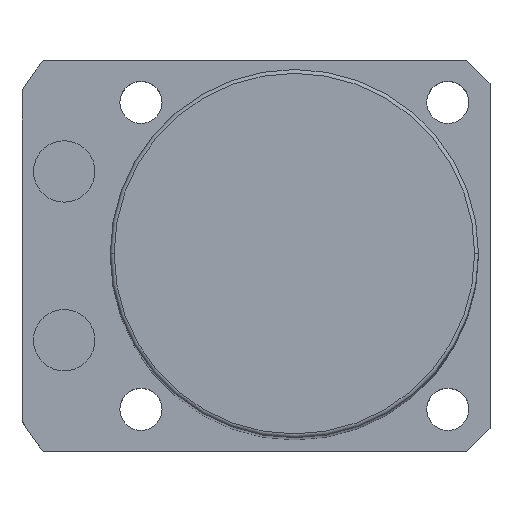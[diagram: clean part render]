
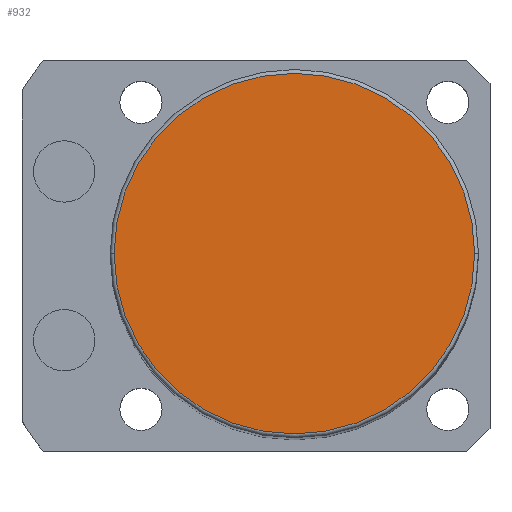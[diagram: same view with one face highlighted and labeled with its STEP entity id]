
A CAD part, top view. The second image highlights one B-rep face of the part: STEP entity #932.
In plain terms, the highlighted planar face has unit normal (0, 0, 1).
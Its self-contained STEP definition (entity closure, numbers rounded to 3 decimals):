
#268 = EDGE_LOOP ( 'NONE', ( #1578, #1601 ) ) ;
#437 = DIRECTION ( 'NONE',  ( 1., 0., 0. ) ) ;
#932 = ADVANCED_FACE ( 'NONE', ( #2117 ), #1220, .T. ) ;
#1017 = CARTESIAN_POINT ( 'NONE',  ( 0., 0., 176. ) ) ;
#1070 = AXIS2_PLACEMENT_3D ( 'NONE', #1017, #2506, #1438 ) ;
#1220 = PLANE ( 'NONE',  #1814 ) ;
#1287 = DIRECTION ( 'NONE',  ( 0., 0., 1. ) ) ;
#1438 = DIRECTION ( 'NONE',  ( 1., 0., 0. ) ) ;
#1537 = CIRCLE ( 'NONE', #1070, 23.5 ) ;
#1578 = ORIENTED_EDGE ( 'NONE', *, *, #2288, .T. ) ;
#1589 = EDGE_CURVE ( 'NONE', #2622, #2447, #2181, .T. ) ;
#1601 = ORIENTED_EDGE ( 'NONE', *, *, #1589, .T. ) ;
#1761 = CARTESIAN_POINT ( 'NONE',  ( 23.5, 0., 176. ) ) ;
#1814 = AXIS2_PLACEMENT_3D ( 'NONE', #2309, #2068, #1873 ) ;
#1873 = DIRECTION ( 'NONE',  ( 1., 0., 0. ) ) ;
#2066 = CARTESIAN_POINT ( 'NONE',  ( -23.5, 0., 176. ) ) ;
#2068 = DIRECTION ( 'NONE',  ( 0., 0., 1. ) ) ;
#2117 = FACE_OUTER_BOUND ( 'NONE', #268, .T. ) ;
#2181 = CIRCLE ( 'NONE', #2550, 23.5 ) ;
#2288 = EDGE_CURVE ( 'NONE', #2447, #2622, #1537, .T. ) ;
#2309 = CARTESIAN_POINT ( 'NONE',  ( 0., 0., 176. ) ) ;
#2447 = VERTEX_POINT ( 'NONE', #1761 ) ;
#2506 = DIRECTION ( 'NONE',  ( 0., 0., 1. ) ) ;
#2550 = AXIS2_PLACEMENT_3D ( 'NONE', #2564, #1287, #437 ) ;
#2564 = CARTESIAN_POINT ( 'NONE',  ( 0., 0., 176. ) ) ;
#2622 = VERTEX_POINT ( 'NONE', #2066 ) ;
